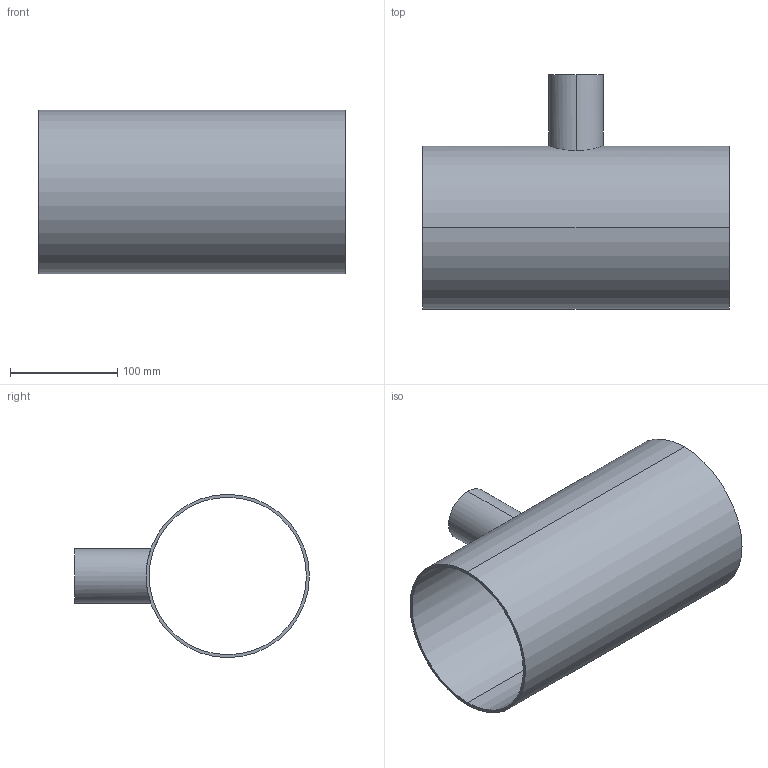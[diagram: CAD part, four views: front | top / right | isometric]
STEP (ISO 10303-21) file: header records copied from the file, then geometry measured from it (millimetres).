
FILE_DESCRIPTION (( 'STEP AP203' ), '1' );
FILE_NAME ('E7RWWW6.0X2.0.STEP', '2018-04-30T18:32:15', ( 'vneprd' ), ( 'Microsoft' ), 'SwSTEP 2.0', 'SolidWorks 2014', '' );
FILE_SCHEMA (( 'CONFIG_CONTROL_DESIGN' ));
Length unit declared in the file: inch
Products named in the file (1): E7RWWW6.0X2.0
Bounding box: 285.75 x 219.07 x 152.4 mm (x, y, z)
Volume: 384437.1 mm3; surface area: 289297.6 mm2
Topology: 1 solids, 1 shells, 11 faces, 24 edges, 16 vertices
Faces by surface type: cylinder 8, plane 3
Entity records: 625 total; most frequent: CARTESIAN_POINT 288, DIRECTION 56, ORIENTED_EDGE 48, EDGE_CURVE 24, AXIS2_PLACEMENT_3D 24, EDGE_LOOP 16, VERTEX_POINT 16, CIRCLE 12
